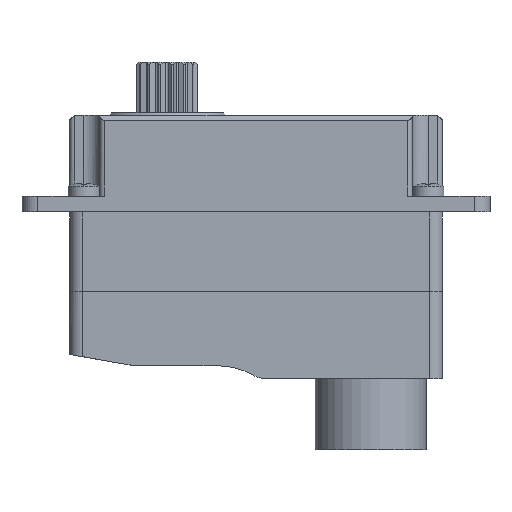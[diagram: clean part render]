
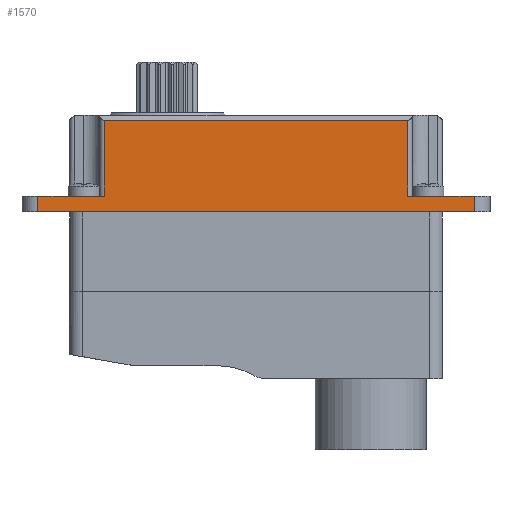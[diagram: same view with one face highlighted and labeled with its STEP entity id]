
A CAD part, front view. The second image highlights one B-rep face of the part: STEP entity #1570.
In plain terms, the highlighted planar face has unit normal (0, -1, 0).
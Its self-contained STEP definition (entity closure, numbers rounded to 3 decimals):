
#121 = CARTESIAN_POINT ( 'NONE',  ( -98.157, -14.714, 5.354 ) ) ;
#233 = VERTEX_POINT ( 'NONE', #121 ) ;
#285 = CARTESIAN_POINT ( 'NONE',  ( -93.957, -14.714, 5.354 ) ) ;
#347 = VERTEX_POINT ( 'NONE', #6683 ) ;
#397 = VERTEX_POINT ( 'NONE', #11385 ) ;
#596 = CARTESIAN_POINT ( 'NONE',  ( -117.257, -14.714, 5.354 ) ) ;
#857 = FACE_OUTER_BOUND ( 'NONE', #13455, .T. ) ;
#1081 = VECTOR ( 'NONE', #8811, 1000. ) ;
#1251 = EDGE_CURVE ( 'NONE', #4328, #8923, #7608, .T. ) ;
#1570 = ADVANCED_FACE ( 'NONE', ( #857 ), #11185, .T. ) ;
#1664 = CARTESIAN_POINT ( 'NONE',  ( -121.457, -14.714, 4.354 ) ) ;
#1823 = CARTESIAN_POINT ( 'NONE',  ( -122.007, -14.714, 10.137 ) ) ;
#2163 = LINE ( 'NONE', #10926, #14159 ) ;
#2818 = EDGE_CURVE ( 'NONE', #397, #9583, #12785, .T. ) ;
#3121 = VERTEX_POINT ( 'NONE', #7958 ) ;
#3344 = EDGE_CURVE ( 'NONE', #3121, #11993, #2163, .T. ) ;
#3472 = DIRECTION ( 'NONE',  ( -1., 0., 0. ) ) ;
#4005 = ORIENTED_EDGE ( 'NONE', *, *, #14154, .T. ) ;
#4281 = EDGE_CURVE ( 'NONE', #233, #347, #11689, .T. ) ;
#4328 = VERTEX_POINT ( 'NONE', #14824 ) ;
#5280 = CARTESIAN_POINT ( 'NONE',  ( -117.257, -14.714, 2.204 ) ) ;
#5486 = VECTOR ( 'NONE', #3472, 1000. ) ;
#5758 = DIRECTION ( 'NONE',  ( -1., 0., 0. ) ) ;
#5937 = CARTESIAN_POINT ( 'NONE',  ( -122.007, -14.714, 5.354 ) ) ;
#6524 = DIRECTION ( 'NONE',  ( 0., -1., 0. ) ) ;
#6683 = CARTESIAN_POINT ( 'NONE',  ( -98.157, -14.714, 10.137 ) ) ;
#6985 = LINE ( 'NONE', #14122, #8879 ) ;
#7198 = VECTOR ( 'NONE', #11276, 1000. ) ;
#7328 = VECTOR ( 'NONE', #10772, 1000. ) ;
#7608 = LINE ( 'NONE', #5280, #1081 ) ;
#7958 = CARTESIAN_POINT ( 'NONE',  ( -93.957, -14.714, 4.354 ) ) ;
#8115 = ORIENTED_EDGE ( 'NONE', *, *, #4281, .T. ) ;
#8414 = ORIENTED_EDGE ( 'NONE', *, *, #15162, .T. ) ;
#8484 = VECTOR ( 'NONE', #9994, 1000. ) ;
#8811 = DIRECTION ( 'NONE',  ( 0., 0., -1. ) ) ;
#8872 = ORIENTED_EDGE ( 'NONE', *, *, #3344, .T. ) ;
#8879 = VECTOR ( 'NONE', #10736, 1000. ) ;
#8923 = VERTEX_POINT ( 'NONE', #596 ) ;
#9007 = CARTESIAN_POINT ( 'NONE',  ( -122.007, -14.714, 2.204 ) ) ;
#9102 = ORIENTED_EDGE ( 'NONE', *, *, #2818, .T. ) ;
#9583 = VERTEX_POINT ( 'NONE', #1664 ) ;
#9648 = ORIENTED_EDGE ( 'NONE', *, *, #13858, .T. ) ;
#9964 = ORIENTED_EDGE ( 'NONE', *, *, #1251, .T. ) ;
#9994 = DIRECTION ( 'NONE',  ( 0., 0., 1. ) ) ;
#10736 = DIRECTION ( 'NONE',  ( 1., 0., 0. ) ) ;
#10772 = DIRECTION ( 'NONE',  ( 0., 0., -1. ) ) ;
#10806 = DIRECTION ( 'NONE',  ( 0., 0., 1. ) ) ;
#10926 = CARTESIAN_POINT ( 'NONE',  ( -93.957, -14.714, 2.204 ) ) ;
#11185 = PLANE ( 'NONE',  #14479 ) ;
#11276 = DIRECTION ( 'NONE',  ( -1., 0., 0. ) ) ;
#11385 = CARTESIAN_POINT ( 'NONE',  ( -121.457, -14.714, 5.354 ) ) ;
#11538 = LINE ( 'NONE', #1823, #7198 ) ;
#11661 = CARTESIAN_POINT ( 'NONE',  ( -122.007, -14.714, 5.354 ) ) ;
#11689 = LINE ( 'NONE', #13552, #8484 ) ;
#11993 = VERTEX_POINT ( 'NONE', #285 ) ;
#12103 = LINE ( 'NONE', #5937, #5486 ) ;
#12785 = LINE ( 'NONE', #14301, #7328 ) ;
#13455 = EDGE_LOOP ( 'NONE', ( #8872, #14882, #8115, #9648, #9964, #8414, #9102, #4005 ) ) ;
#13552 = CARTESIAN_POINT ( 'NONE',  ( -98.157, -14.714, 2.204 ) ) ;
#13858 = EDGE_CURVE ( 'NONE', #347, #4328, #11538, .T. ) ;
#13872 = LINE ( 'NONE', #11661, #14776 ) ;
#13876 = DIRECTION ( 'NONE',  ( 0., 0., -1. ) ) ;
#14122 = CARTESIAN_POINT ( 'NONE',  ( -122.007, -14.714, 4.354 ) ) ;
#14154 = EDGE_CURVE ( 'NONE', #9583, #3121, #6985, .T. ) ;
#14159 = VECTOR ( 'NONE', #10806, 1000. ) ;
#14175 = EDGE_CURVE ( 'NONE', #11993, #233, #12103, .T. ) ;
#14301 = CARTESIAN_POINT ( 'NONE',  ( -121.457, -14.714, 2.204 ) ) ;
#14479 = AXIS2_PLACEMENT_3D ( 'NONE', #9007, #6524, #13876 ) ;
#14776 = VECTOR ( 'NONE', #5758, 1000. ) ;
#14824 = CARTESIAN_POINT ( 'NONE',  ( -117.257, -14.714, 10.137 ) ) ;
#14882 = ORIENTED_EDGE ( 'NONE', *, *, #14175, .T. ) ;
#15162 = EDGE_CURVE ( 'NONE', #8923, #397, #13872, .T. ) ;
